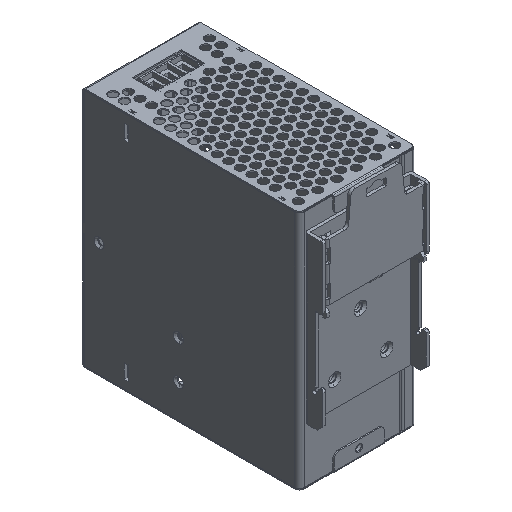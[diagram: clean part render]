
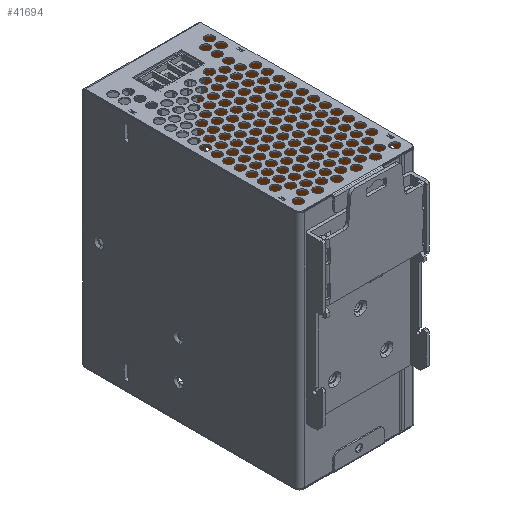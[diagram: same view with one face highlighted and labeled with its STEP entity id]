
A CAD part, isometric view. The second image highlights one B-rep face of the part: STEP entity #41694.
In plain terms, the highlighted planar face has unit normal (-1, 0, 0) as drawn and (1, 0, 0) by its records, which use the part's own axes.
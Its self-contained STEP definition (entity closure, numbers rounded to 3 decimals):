
#675 = CARTESIAN_POINT ( 'NONE',  ( 1.5, 1.6, 123.8 ) ) ;
#1850 = FACE_BOUND ( 'NONE', #51488, .T. ) ;
#1980 = EDGE_CURVE ( 'NONE', #29173, #4076, #60449, .T. ) ;
#2773 = VERTEX_POINT ( 'NONE', #53637 ) ;
#2911 = CARTESIAN_POINT ( 'NONE',  ( 1.5, 106.541, 55.6 ) ) ;
#3092 = DIRECTION ( 'NONE',  ( 0., 0., -1. ) ) ;
#4076 = VERTEX_POINT ( 'NONE', #14705 ) ;
#4760 = CARTESIAN_POINT ( 'NONE',  ( 1.5, 111.8, 123.8 ) ) ;
#4892 = CARTESIAN_POINT ( 'NONE',  ( 1.5, 111.8, 59.4 ) ) ;
#5499 = CARTESIAN_POINT ( 'NONE',  ( 1.5, 10.541, 3.4 ) ) ;
#6090 = CARTESIAN_POINT ( 'NONE',  ( 1.5, 112.4, 64.4 ) ) ;
#7036 = LINE ( 'NONE', #6090, #48433 ) ;
#8281 = ORIENTED_EDGE ( 'NONE', *, *, #21983, .F. ) ;
#8441 = VERTEX_POINT ( 'NONE', #55439 ) ;
#8581 = ORIENTED_EDGE ( 'NONE', *, *, #27393, .T. ) ;
#8816 = DIRECTION ( 'NONE',  ( 1., 0., 0. ) ) ;
#9551 = CARTESIAN_POINT ( 'NONE',  ( 1.5, 112.4, 59.4 ) ) ;
#9848 = CARTESIAN_POINT ( 'NONE',  ( 1.5, 112.4, 64.4 ) ) ;
#10009 = CARTESIAN_POINT ( 'NONE',  ( 1.5, 106.541, 52.4 ) ) ;
#10418 = DIRECTION ( 'NONE',  ( 1., 0., 0. ) ) ;
#10790 = CIRCLE ( 'NONE', #44347, 1.6 ) ;
#11051 = DIRECTION ( 'NONE',  ( 0., 0., -1. ) ) ;
#11222 = DIRECTION ( 'NONE',  ( 0., 0., -1. ) ) ;
#11671 = CARTESIAN_POINT ( 'NONE',  ( 1.5, 0., 123.8 ) ) ;
#12164 = CARTESIAN_POINT ( 'NONE',  ( 1.5, 10.541, 6.6 ) ) ;
#12221 = EDGE_CURVE ( 'NONE', #62081, #32870, #32750, .T. ) ;
#13056 = AXIS2_PLACEMENT_3D ( 'NONE', #39913, #24939, #44383 ) ;
#13486 = CARTESIAN_POINT ( 'NONE',  ( 1.5, 10.541, 118.8 ) ) ;
#13985 = VERTEX_POINT ( 'NONE', #19039 ) ;
#14612 = LINE ( 'NONE', #4760, #24087 ) ;
#14705 = CARTESIAN_POINT ( 'NONE',  ( 1.5, 10.541, 120.4 ) ) ;
#15494 = CARTESIAN_POINT ( 'NONE',  ( 1.5, 110.8, 122.8 ) ) ;
#15921 = AXIS2_PLACEMENT_3D ( 'NONE', #11671, #46373, #3092 ) ;
#16250 = EDGE_CURVE ( 'NONE', #32870, #62081, #10790, .T. ) ;
#16456 = FACE_BOUND ( 'NONE', #19927, .T. ) ;
#16476 = VERTEX_POINT ( 'NONE', #675 ) ;
#16573 = DIRECTION ( 'NONE',  ( 0., 0., -1. ) ) ;
#18504 = EDGE_CURVE ( 'NONE', #4076, #29173, #21059, .T. ) ;
#19039 = CARTESIAN_POINT ( 'NONE',  ( 1.5, 111.8, 122.8 ) ) ;
#19927 = EDGE_LOOP ( 'NONE', ( #8281, #32956 ) ) ;
#20018 = DIRECTION ( 'NONE',  ( 0., 0., -1. ) ) ;
#20938 = CARTESIAN_POINT ( 'NONE',  ( 1.5, 10.541, 118.8 ) ) ;
#20950 = VERTEX_POINT ( 'NONE', #54098 ) ;
#21059 = CIRCLE ( 'NONE', #61761, 1.6 ) ;
#21303 = AXIS2_PLACEMENT_3D ( 'NONE', #15494, #57328, #33756 ) ;
#21606 = CARTESIAN_POINT ( 'NONE',  ( 1.5, 112.4, 64.4 ) ) ;
#21983 = EDGE_CURVE ( 'NONE', #48843, #49079, #27292, .T. ) ;
#22336 = CIRCLE ( 'NONE', #21303, 1. ) ;
#23021 = DIRECTION ( 'NONE',  ( 1., 0., 0. ) ) ;
#23313 = CARTESIAN_POINT ( 'NONE',  ( 1.5, 10.541, 117.2 ) ) ;
#23326 = VECTOR ( 'NONE', #20018, 1000. ) ;
#24087 = VECTOR ( 'NONE', #34035, 1000. ) ;
#24939 = DIRECTION ( 'NONE',  ( 1., 0., 0. ) ) ;
#25187 = EDGE_CURVE ( 'NONE', #49079, #48843, #60303, .T. ) ;
#25487 = DIRECTION ( 'NONE',  ( 0., -1., 0. ) ) ;
#27274 = FACE_BOUND ( 'NONE', #54020, .T. ) ;
#27292 = CIRCLE ( 'NONE', #13056, 1.6 ) ;
#27393 = EDGE_CURVE ( 'NONE', #55558, #2773, #61620, .T. ) ;
#27505 = EDGE_CURVE ( 'NONE', #47327, #39235, #7036, .T. ) ;
#27624 = EDGE_CURVE ( 'NONE', #8441, #16476, #51596, .T. ) ;
#27807 = VERTEX_POINT ( 'NONE', #31152 ) ;
#29173 = VERTEX_POINT ( 'NONE', #23313 ) ;
#29670 = AXIS2_PLACEMENT_3D ( 'NONE', #50215, #10418, #11051 ) ;
#30021 = DIRECTION ( 'NONE',  ( 0., 0., -1. ) ) ;
#30602 = DIRECTION ( 'NONE',  ( 1., 0., 0. ) ) ;
#31152 = CARTESIAN_POINT ( 'NONE',  ( 1.5, 1.6, 0. ) ) ;
#32750 = CIRCLE ( 'NONE', #29670, 1.6 ) ;
#32818 = ORIENTED_EDGE ( 'NONE', *, *, #1980, .F. ) ;
#32838 = AXIS2_PLACEMENT_3D ( 'NONE', #47339, #8816, #62321 ) ;
#32870 = VERTEX_POINT ( 'NONE', #2911 ) ;
#32956 = ORIENTED_EDGE ( 'NONE', *, *, #25187, .F. ) ;
#32988 = AXIS2_PLACEMENT_3D ( 'NONE', #20938, #49299, #55030 ) ;
#33046 = EDGE_CURVE ( 'NONE', #13985, #8441, #22336, .T. ) ;
#33466 = DIRECTION ( 'NONE',  ( 0., -1., 0. ) ) ;
#33756 = DIRECTION ( 'NONE',  ( 0., 0., -1. ) ) ;
#34035 = DIRECTION ( 'NONE',  ( 0., 0., -1. ) ) ;
#34289 = EDGE_CURVE ( 'NONE', #20950, #48819, #62430, .T. ) ;
#34963 = ORIENTED_EDGE ( 'NONE', *, *, #52055, .F. ) ;
#35187 = LINE ( 'NONE', #56202, #40586 ) ;
#35554 = ORIENTED_EDGE ( 'NONE', *, *, #50307, .F. ) ;
#35626 = CARTESIAN_POINT ( 'NONE',  ( 1.5, 111.8, 64.4 ) ) ;
#35690 = CARTESIAN_POINT ( 'NONE',  ( 1.5, 110.8, 1. ) ) ;
#35885 = PLANE ( 'NONE',  #15921 ) ;
#36368 = DIRECTION ( 'NONE',  ( 1., 0., 0. ) ) ;
#36370 = LINE ( 'NONE', #55819, #59467 ) ;
#37875 = ORIENTED_EDGE ( 'NONE', *, *, #12221, .F. ) ;
#37885 = DIRECTION ( 'NONE',  ( 0., -1., 0. ) ) ;
#38191 = LINE ( 'NONE', #9848, #23326 ) ;
#39235 = VERTEX_POINT ( 'NONE', #35626 ) ;
#39913 = CARTESIAN_POINT ( 'NONE',  ( 1.5, 10.541, 5. ) ) ;
#40586 = VECTOR ( 'NONE', #55580, 1000. ) ;
#41145 = CARTESIAN_POINT ( 'NONE',  ( 1.5, 106.541, 54. ) ) ;
#41694 = ADVANCED_FACE ( 'NONE', ( #27274, #16456, #1850, #50863 ), #35885, .T. ) ;
#41730 = CARTESIAN_POINT ( 'NONE',  ( 1.5, 0., 123.8 ) ) ;
#43245 = EDGE_CURVE ( 'NONE', #16476, #27807, #35187, .T. ) ;
#44347 = AXIS2_PLACEMENT_3D ( 'NONE', #41145, #36368, #30021 ) ;
#44383 = DIRECTION ( 'NONE',  ( 0., 0., -1. ) ) ;
#44843 = CARTESIAN_POINT ( 'NONE',  ( 1.5, 110.8, 0. ) ) ;
#44981 = ORIENTED_EDGE ( 'NONE', *, *, #18504, .F. ) ;
#45964 = ORIENTED_EDGE ( 'NONE', *, *, #16250, .F. ) ;
#46373 = DIRECTION ( 'NONE',  ( 1., 0., 0. ) ) ;
#47327 = VERTEX_POINT ( 'NONE', #21606 ) ;
#47339 = CARTESIAN_POINT ( 'NONE',  ( 1.5, 10.541, 5. ) ) ;
#48433 = VECTOR ( 'NONE', #25487, 1000. ) ;
#48819 = VERTEX_POINT ( 'NONE', #4892 ) ;
#48843 = VERTEX_POINT ( 'NONE', #5499 ) ;
#49079 = VERTEX_POINT ( 'NONE', #12164 ) ;
#49299 = DIRECTION ( 'NONE',  ( 1., 0., 0. ) ) ;
#49670 = ORIENTED_EDGE ( 'NONE', *, *, #43245, .T. ) ;
#50215 = CARTESIAN_POINT ( 'NONE',  ( 1.5, 106.541, 54. ) ) ;
#50216 = EDGE_CURVE ( 'NONE', #48819, #2773, #36370, .T. ) ;
#50307 = EDGE_CURVE ( 'NONE', #55558, #27807, #61202, .T. ) ;
#50863 = FACE_OUTER_BOUND ( 'NONE', #56125, .T. ) ;
#51316 = CARTESIAN_POINT ( 'NONE',  ( 1.5, 0., 0. ) ) ;
#51488 = EDGE_LOOP ( 'NONE', ( #32818, #44981 ) ) ;
#51596 = LINE ( 'NONE', #41730, #58621 ) ;
#52055 = EDGE_CURVE ( 'NONE', #13985, #39235, #14612, .T. ) ;
#52256 = DIRECTION ( 'NONE',  ( 0., -1., 0. ) ) ;
#52333 = DIRECTION ( 'NONE',  ( 0., 0., -1. ) ) ;
#53622 = ORIENTED_EDGE ( 'NONE', *, *, #33046, .T. ) ;
#53637 = CARTESIAN_POINT ( 'NONE',  ( 1.5, 111.8, 1. ) ) ;
#54020 = EDGE_LOOP ( 'NONE', ( #37875, #45964 ) ) ;
#54098 = CARTESIAN_POINT ( 'NONE',  ( 1.5, 112.4, 59.4 ) ) ;
#54413 = ORIENTED_EDGE ( 'NONE', *, *, #34289, .F. ) ;
#55030 = DIRECTION ( 'NONE',  ( 0., 0., -1. ) ) ;
#55439 = CARTESIAN_POINT ( 'NONE',  ( 1.5, 110.8, 123.8 ) ) ;
#55516 = ORIENTED_EDGE ( 'NONE', *, *, #27624, .T. ) ;
#55558 = VERTEX_POINT ( 'NONE', #44843 ) ;
#55580 = DIRECTION ( 'NONE',  ( 0., 0., -1. ) ) ;
#55819 = CARTESIAN_POINT ( 'NONE',  ( 1.5, 111.8, 123.8 ) ) ;
#56125 = EDGE_LOOP ( 'NONE', ( #8581, #61629, #54413, #61058, #56228, #34963, #53622, #55516, #49670, #35554 ) ) ;
#56131 = VECTOR ( 'NONE', #33466, 1000. ) ;
#56202 = CARTESIAN_POINT ( 'NONE',  ( 1.5, 1.6, 123.8 ) ) ;
#56228 = ORIENTED_EDGE ( 'NONE', *, *, #27505, .T. ) ;
#57328 = DIRECTION ( 'NONE',  ( 1., 0., 0. ) ) ;
#58492 = VECTOR ( 'NONE', #52256, 1000. ) ;
#58577 = AXIS2_PLACEMENT_3D ( 'NONE', #35690, #30602, #16573 ) ;
#58621 = VECTOR ( 'NONE', #37885, 1000. ) ;
#59467 = VECTOR ( 'NONE', #11222, 1000. ) ;
#60303 = CIRCLE ( 'NONE', #32838, 1.6 ) ;
#60449 = CIRCLE ( 'NONE', #32988, 1.6 ) ;
#61058 = ORIENTED_EDGE ( 'NONE', *, *, #62935, .F. ) ;
#61202 = LINE ( 'NONE', #51316, #58492 ) ;
#61620 = CIRCLE ( 'NONE', #58577, 1. ) ;
#61629 = ORIENTED_EDGE ( 'NONE', *, *, #50216, .F. ) ;
#61761 = AXIS2_PLACEMENT_3D ( 'NONE', #13486, #23021, #52333 ) ;
#62081 = VERTEX_POINT ( 'NONE', #10009 ) ;
#62321 = DIRECTION ( 'NONE',  ( 0., 0., -1. ) ) ;
#62430 = LINE ( 'NONE', #9551, #56131 ) ;
#62935 = EDGE_CURVE ( 'NONE', #47327, #20950, #38191, .T. ) ;
